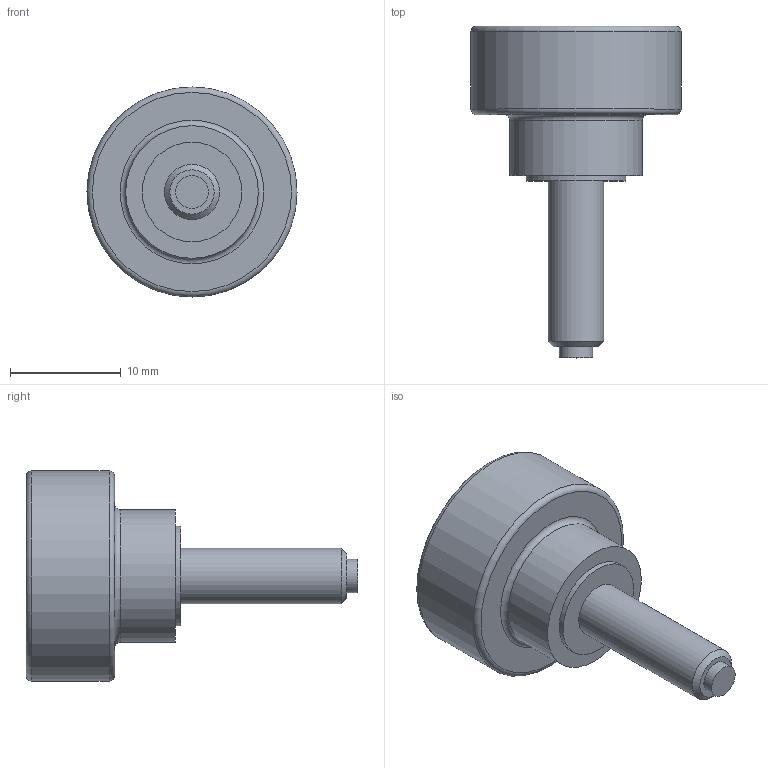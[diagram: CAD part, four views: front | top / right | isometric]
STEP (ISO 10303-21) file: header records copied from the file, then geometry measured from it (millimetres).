
FILE_DESCRIPTION( ( 'STEP AP203' ), '1' );
FILE_NAME( 'C:/Temp/Ganter_Step_05_03_2020/data/2_2/gn_421_10/Hollow knurled knob, with tip GN 421.10-M5-15-KU.stp', '2020-03-05T12:25:31', ( 'License CC BY-ND 4.0' ), ( 'CADENAS' ), ' ', 'PARTsolutions', ' ' );
FILE_SCHEMA( ( 'CONFIG_CONTROL_DESIGN' ) );
Length unit declared in the file: millimetre
Products named in the file (1): _Hollow knurled knob, with tip GN 421.10-M5-15-KU
Bounding box: 19 x 30 x 19 mm (x, y, z)
Volume: 2212.4 mm3; surface area: 1774 mm2
Topology: 1 solids, 1 shells, 19 faces, 30 edges, 19 vertices
Faces by surface type: plane 8, cylinder 7, torus 3, cone 1
Full cylindrical faces by diameter (mm): 3 x1, 5 x1, 8 x1, 9 x1, 12 x1, 16 x1, 19 x1
Entity records: 418 total; most frequent: DIRECTION 76, CARTESIAN_POINT 56, AXIS2_PLACEMENT_3D 38, EDGE_LOOP 36, ORIENTED_EDGE 36, FACE_OUTER_BOUND 29, ADVANCED_FACE 19, EDGE_CURVE 18
